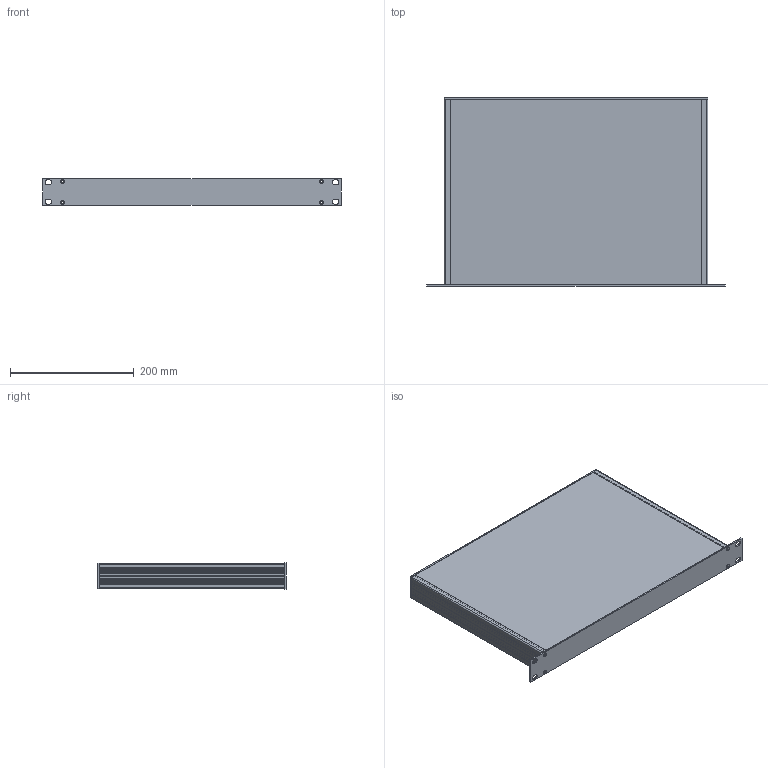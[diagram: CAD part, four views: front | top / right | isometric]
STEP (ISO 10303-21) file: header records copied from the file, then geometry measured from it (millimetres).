
FILE_DESCRIPTION(/* description */ (''),/* implementation_level */ '2;1');
FILE_NAME(/* name */ '//diskstation/Kunden/Gehäuse/Gehäuse/1HE/step/300.step',/* time_stamp */ '2022-02-17T15:25:14+01:00',/* author */ (''),/* organization */ (''),/* preprocessor_version */ 'ST-DEVELOPER v18.1',/* originating_system */ 'Autodesk Translation Framework v10.10.0.1391',/* authorisation */ '');
FILE_SCHEMA (('AUTOMOTIVE_DESIGN { 1 0 10303 214 3 1 1 }'));
Length unit declared in the file: millimetre
Products named in the file (7): 1HE Gehäuse mit Parameter (Seitenteilprofil); Frontplatte; Gehäuse; Seitenteilprofil; Rückplatte; Deckel; Bodenplatte
Assembly tree (7 placements, depth 3):
  1HE Gehäuse mit Parameter (Seitenteilprofil)
    Frontplatte
    Gehäuse
      Seitenteilprofil  x2
      Rückplatte
      Deckel
      Bodenplatte
Bounding box: 483 x 305 x 43.6 mm (x, y, z)
Volume: 812028.3 mm3; surface area: 691081.9 mm2
Topology: 6 solids, 6 shells, 252 faces, 712 edges, 472 vertices
Faces by surface type: plane 158, cylinder 86, cone 8
Full cylindrical faces by diameter (mm): 3 x4, 3.2 x8
Entity records: 5633 total; most frequent: CARTESIAN_POINT 956, DIRECTION 952, ORIENTED_EDGE 932, EDGE_CURVE 466, LINE 344, VECTOR 344, VERTEX_POINT 308, AXIS2_PLACEMENT_3D 304
